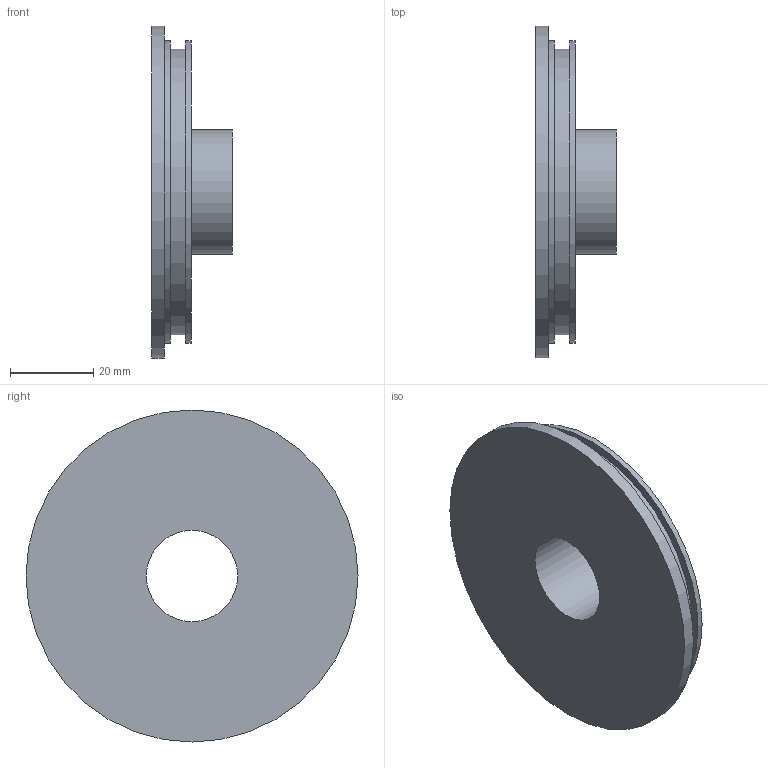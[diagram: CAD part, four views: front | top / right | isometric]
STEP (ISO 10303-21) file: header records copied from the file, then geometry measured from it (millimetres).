
FILE_DESCRIPTION(('Open CASCADE Model'),'2;1');
FILE_NAME('Open CASCADE Shape Model','2026-11-02T23:22:40',('Author'),( 'Open CASCADE'),'Open CASCADE STEP processor 7.9','Open CASCADE 7.9' ,'Unknown');
FILE_SCHEMA(('AUTOMOTIVE_DESIGN { 1 0 10303 214 1 1 1 1 }'));
Length unit declared in the file: millimetre
Products named in the file (1): Open CASCADE STEP translator 7.9 9
Bounding box: 19.4 x 80 x 80 mm (x, y, z)
Volume: 40164.7 mm3; surface area: 14763.7 mm2
Topology: 1 solids, 1 shells, 16 faces, 24 edges, 16 vertices
Faces by surface type: cylinder 8, plane 8
Full cylindrical faces by diameter (mm): 22 x2, 23 x1, 30 x1, 68.79 x1, 72.95 x2, 80 x1
Entity records: 711 total; most frequent: CARTESIAN_POINT 147, DIRECTION 115, ORIENTED_EDGE 48, PCURVE 48, DEFINITIONAL_REPRESENTATION 48, LINE 40, VECTOR 40, AXIS2_PLACEMENT_3D 33
